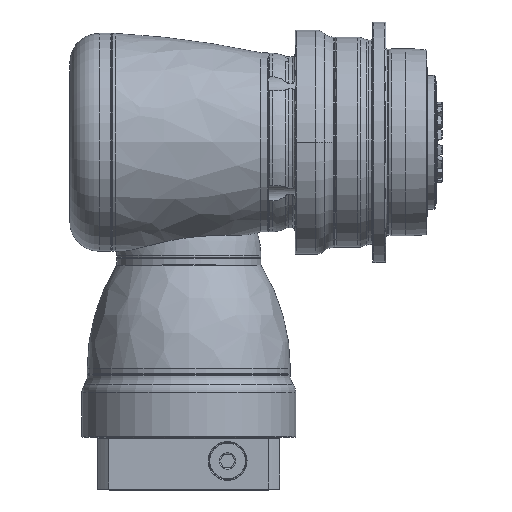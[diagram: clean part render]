
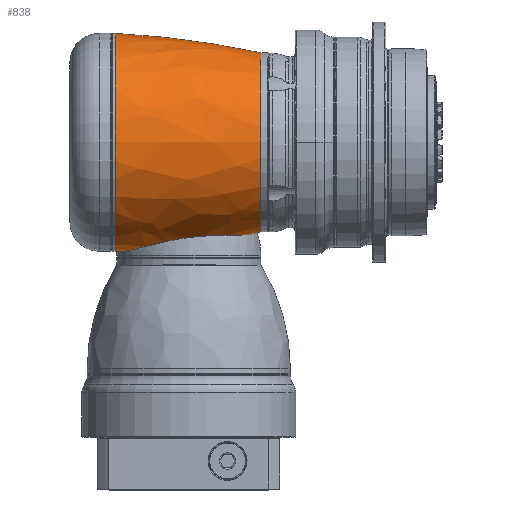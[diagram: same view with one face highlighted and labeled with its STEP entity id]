
A CAD part, top view. The second image highlights one B-rep face of the part: STEP entity #838.
In plain terms, the highlighted free-form (B-spline) face has degree [3, 3] with [7, 4] control points.
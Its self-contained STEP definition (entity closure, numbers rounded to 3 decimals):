
#133=CARTESIAN_POINT('',(-92.521,617.494,
0.));
#134=DIRECTION('',(0.,0.,-1.));
#135=DIRECTION('',(0.064,-0.998,0.));
#136=AXIS2_PLACEMENT_3D('',#133,#134,#135);
#138=CARTESIAN_POINT('',(-92.521,617.494,
0.));
#139=DIRECTION('',(0.,0.,-1.));
#140=DIRECTION('',(0.209,-0.978,0.));
#141=AXIS2_PLACEMENT_3D('',#138,#139,#140);
#148=CARTESIAN_POINT('',(-92.521,-617.494,
0.));
#149=DIRECTION('',(0.,0.,1.));
#150=DIRECTION('',(0.209,0.978,0.));
#151=AXIS2_PLACEMENT_3D('',#148,#149,#150);
#173=CARTESIAN_POINT('',(-55.,81.498,0.556));
#175=CARTESIAN_POINT('',(-55.,0.,0.));
#176=DIRECTION('',(1.,0.,0.));
#177=DIRECTION('',(0.,1.,0.007));
#178=AXIS2_PLACEMENT_3D('',#175,#176,#177);
#263=CARTESIAN_POINT('',(-54.763,81.487,
0.));
#264=CARTESIAN_POINT('',(-54.763,81.487,0.104));
#265=CARTESIAN_POINT('',(-54.805,81.489,0.311));
#266=CARTESIAN_POINT('',(-54.925,81.495,0.485));
#267=CARTESIAN_POINT('',(-55.,81.498,0.556));
#269=CARTESIAN_POINT('',(54.,0.,0.));
#270=DIRECTION('',(1.,0.,0.));
#271=DIRECTION('',(0.,1.,0.));
#272=AXIS2_PLACEMENT_3D('',#269,#270,#271);
#338=CARTESIAN_POINT('',(-47.703,-81.07,0.));
#339=CARTESIAN_POINT('',(-46.711,-81.006,1.883));
#340=CARTESIAN_POINT('',(-44.473,-80.728,5.573));
#341=CARTESIAN_POINT('',(-40.271,-79.881,10.825));
#342=CARTESIAN_POINT('',(-35.457,-78.725,15.432));
#343=CARTESIAN_POINT('',(-30.052,-77.36,19.386));
#344=CARTESIAN_POINT('',(-24.133,-75.891,22.612));
#345=CARTESIAN_POINT('',(-17.681,-74.404,25.078));
#346=CARTESIAN_POINT('',(-10.911,-73.028,26.68));
#347=CARTESIAN_POINT('',(-3.939,-71.853,27.373));
#348=CARTESIAN_POINT('',(2.54,-70.989,27.228));
#349=CARTESIAN_POINT('',(9.265,-70.327,26.29));
#350=CARTESIAN_POINT('',(15.865,-69.908,24.519));
#351=CARTESIAN_POINT('',(22.183,-69.694,21.955));
#352=CARTESIAN_POINT('',(27.994,-69.62,18.707));
#353=CARTESIAN_POINT('',(33.264,-69.595,14.827));
#354=CARTESIAN_POINT('',(37.917,-69.53,10.394));
#355=CARTESIAN_POINT('',(41.953,-69.326,5.394));
#356=CARTESIAN_POINT('',(44.113,-69.043,1.827));
#357=CARTESIAN_POINT('',(45.059,-68.853,
0.));
#452=CARTESIAN_POINT('',(54.,67.,0.));
#453=CARTESIAN_POINT('',(54.,-67.,0.));
#454=VERTEX_POINT('',#452);
#455=VERTEX_POINT('',#453);
#456=CARTESIAN_POINT('',(45.059,-68.853,
0.));
#457=VERTEX_POINT('',#456);
#458=CARTESIAN_POINT('',(-47.703,-81.07,
0.));
#459=CARTESIAN_POINT('',(-55.,-81.5,0.));
#460=VERTEX_POINT('',#458);
#461=VERTEX_POINT('',#459);
#502=VERTEX_POINT('',#173);
#507=VERTEX_POINT('',#263);
#798=CARTESIAN_POINT('',(-57.198,81.453,-5.125));
#799=CARTESIAN_POINT('',(-19.046,79.53,-5.004));
#800=CARTESIAN_POINT('',(18.822,74.502,-4.687));
#801=CARTESIAN_POINT('',(56.152,66.405,-4.178));
#802=CARTESIAN_POINT('',(-57.198,84.607,45.002));
#803=CARTESIAN_POINT('',(-19.046,82.609,43.939));
#804=CARTESIAN_POINT('',(18.822,77.387,41.161));
#805=CARTESIAN_POINT('',(56.152,68.976,36.687));
#806=CARTESIAN_POINT('',(-57.198,50.225,81.615));
#807=CARTESIAN_POINT('',(-19.046,49.039,79.687));
#808=CARTESIAN_POINT('',(18.822,45.939,74.649));
#809=CARTESIAN_POINT('',(56.152,40.946,66.536));
#810=CARTESIAN_POINT('',(-57.198,0.,
81.615));
#811=CARTESIAN_POINT('',(-19.046,0.,
79.687));
#812=CARTESIAN_POINT('',(18.822,0.,74.649));
#813=CARTESIAN_POINT('',(56.152,0.,66.536));
#814=CARTESIAN_POINT('',(-57.198,-50.225,81.615));
#815=CARTESIAN_POINT('',(-19.046,-49.039,79.687));
#816=CARTESIAN_POINT('',(18.822,-45.939,74.649));
#817=CARTESIAN_POINT('',(56.152,-40.946,66.536));
#818=CARTESIAN_POINT('',(-57.198,-84.607,45.002));
#819=CARTESIAN_POINT('',(-19.046,-82.609,43.939));
#820=CARTESIAN_POINT('',(18.822,-77.387,41.161));
#821=CARTESIAN_POINT('',(56.152,-68.976,36.687));
#822=CARTESIAN_POINT('',(-57.198,-81.453,
-5.125));
#823=CARTESIAN_POINT('',(-19.046,-79.53,
-5.004));
#824=CARTESIAN_POINT('',(18.822,-74.502,-4.687));
#825=CARTESIAN_POINT('',(56.152,-66.405,-4.178));
#826=(BOUNDED_SURFACE()B_SPLINE_SURFACE(3,3,((#798,#799,#800,#801),(#802,#803,
#804,#805),(#806,#807,#808,#809),(#810,#811,#812,#813),(#814,#815,#816,#817),(
#818,#819,#820,#821),(#822,#823,#824,#825)),.UNSPECIFIED.,.F.,.F.,.F.)B_SPLINE_SURFACE_WITH_KNOTS((4,3,4),(4,4),(0.,1.,2.),(0.,1.),.UNSPECIFIED.)GEOMETRIC_REPRESENTATION_ITEM()RATIONAL_B_SPLINE_SURFACE(((1.189,
1.187,1.187,1.189),(0.939,
0.937,0.937,0.939),(0.939,
0.937,0.937,0.939),(1.189,
1.187,1.187,1.189),(0.939,
0.937,0.937,0.939),(0.939,
0.937,0.937,0.939),(1.189,
1.187,1.187,1.189)))REPRESENTATION_ITEM('')SURFACE());
#827=ORIENTED_EDGE('',*,*,#664,.F.);
#828=ORIENTED_EDGE('',*,*,#645,.F.);
#830=ORIENTED_EDGE('',*,*,#829,.T.);
#831=ORIENTED_EDGE('',*,*,#641,.T.);
#833=ORIENTED_EDGE('',*,*,#832,.F.);
#834=ORIENTED_EDGE('',*,*,#634,.T.);
#835=ORIENTED_EDGE('',*,*,#677,.F.);
#836=EDGE_LOOP('',(#827,#828,#830,#831,#833,#834,#835));
#837=FACE_OUTER_BOUND('',#836,.F.);
#838=ADVANCED_FACE('',(#837),#826,.T.);
#137=CIRCLE('',#136,700.);
#142=CIRCLE('',#141,700.);
#152=CIRCLE('',#151,700.);
#179=CIRCLE('',#178,81.5);
#268=B_SPLINE_CURVE_WITH_KNOTS('',3,(#263,#264,#265,#266,#267),.UNSPECIFIED.,
.F.,.F.,(4,1,4),(0.,0.5,1.),.UNSPECIFIED.);
#273=CIRCLE('',#272,67.);
#358=B_SPLINE_CURVE_WITH_KNOTS('',3,(#338,#339,#340,#341,#342,#343,#344,#345,
#346,#347,#348,#349,#350,#351,#352,#353,#354,#355,#356,#357),.UNSPECIFIED.,.F.,
.F.,(4,1,1,1,1,1,1,1,1,1,1,1,1,1,1,1,1,4),(0.,0.059,
0.118,0.176,0.235,0.294,
0.353,0.412,0.471,0.529,
0.588,0.647,0.706,0.765,
0.824,0.882,0.941,1.),.UNSPECIFIED.);
#634=EDGE_CURVE('',#460,#461,#137,.T.);
#641=EDGE_CURVE('',#455,#457,#142,.T.);
#645=EDGE_CURVE('',#454,#507,#152,.T.);
#664=EDGE_CURVE('',#507,#502,#268,.T.);
#677=EDGE_CURVE('',#502,#461,#179,.T.);
#829=EDGE_CURVE('',#454,#455,#273,.T.);
#832=EDGE_CURVE('',#460,#457,#358,.T.);
